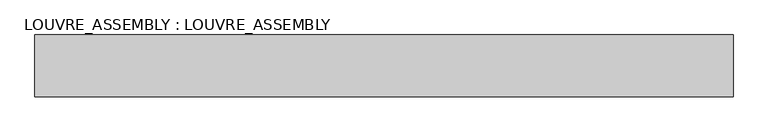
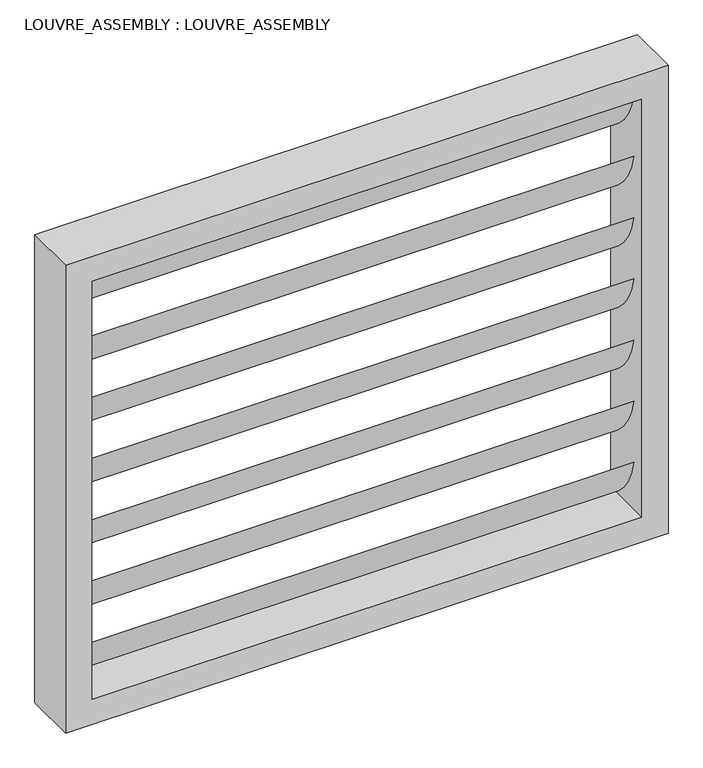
"""IFC4 building model written with IfcOpenShell, lengths in millimetres: plate geometry, LOUVRE_ASSEMBLY : LOUVRE_ASSEMBLY."""

from ifc_helpers import new_model, si_unit, point, frame, frame_2d, origin, place, context, project, spatial, circle_curve, trimmed, segment, composite_curve, outline, extrude, faceted_brep, source, transform, mapped, element, save


def louvre_assembly_louvre_assembly_2a96ff12(model_context):
    return source(origin(), model_context, "Body", "SolidModel", [
        extrude(outline(composite_curve([segment(trimmed(circle_curve(frame_2d((181.8653348, 437.5)), 222.9910312), [point((37.5, 267.5480947))], [point((-37.5, 397.4519053))], False, "CARTESIAN"), True, "CONTINUOUS"), segment(trimmed(circle_curve(frame_2d((-181.8653348, 227.5)), 222.9910312), [point((-37.5, 397.4519053))], [point((37.5, 267.5480947))], False, "CARTESIAN"), True, "CONTINUOUS")], self_intersect=False)), frame((-775.0, 0.0, 0.0), z_axis=(1.0, 0.0, 0.0), x_axis=(0.0, 1.0, 0.0)), (0.0, 0.0, 1.0), 1550.0),
        extrude(outline(composite_curve([segment(trimmed(circle_curve(frame_2d((181.8653348, 620.0)), 222.9910312), [point((37.5, 450.0480947))], [point((-37.5, 579.9519053))], False, "CARTESIAN"), True, "CONTINUOUS"), segment(trimmed(circle_curve(frame_2d((-181.8653348, 410.0)), 222.9910312), [point((-37.5, 579.9519053))], [point((37.5, 450.0480947))], False, "CARTESIAN"), True, "CONTINUOUS")], self_intersect=False)), frame((-775.0, 0.0, 0.0), z_axis=(1.0, 0.0, 0.0), x_axis=(0.0, 1.0, 0.0)), (0.0, 0.0, 1.0), 1550.0),
        extrude(outline(composite_curve([segment(trimmed(circle_curve(frame_2d((181.8653348, 802.5)), 222.9910312), [point((37.5, 632.5480947))], [point((-37.5, 762.4519053))], False, "CARTESIAN"), True, "CONTINUOUS"), segment(trimmed(circle_curve(frame_2d((-181.8653348, 592.5)), 222.9910312), [point((-37.5, 762.4519053))], [point((37.5, 632.5480947))], False, "CARTESIAN"), True, "CONTINUOUS")], self_intersect=False)), frame((-775.0, 0.0, 0.0), z_axis=(1.0, 0.0, 0.0), x_axis=(0.0, 1.0, 0.0)), (0.0, 0.0, 1.0), 1550.0),
        extrude(outline(composite_curve([segment(trimmed(circle_curve(frame_2d((181.8653348, 985.0)), 222.9910312), [point((37.5, 815.0480947))], [point((-37.5, 944.9519053))], False, "CARTESIAN"), True, "CONTINUOUS"), segment(trimmed(circle_curve(frame_2d((-181.8653348, 775.0)), 222.9910312), [point((-37.5, 944.9519053))], [point((37.5, 815.0480947))], False, "CARTESIAN"), True, "CONTINUOUS")], self_intersect=False)), frame((-775.0, 0.0, 0.0), z_axis=(1.0, 0.0, 0.0), x_axis=(0.0, 1.0, 0.0)), (0.0, 0.0, 1.0), 1550.0),
        extrude(outline(composite_curve([segment(trimmed(circle_curve(frame_2d((181.8653348, 1167.5)), 222.9910312), [point((37.5, 997.5480947))], [point((-37.5, 1127.4519053))], False, "CARTESIAN"), True, "CONTINUOUS"), segment(trimmed(circle_curve(frame_2d((-181.8653348, 957.5)), 222.9910312), [point((-37.5, 1127.4519053))], [point((37.5, 997.5480947))], False, "CARTESIAN"), True, "CONTINUOUS")], self_intersect=False)), frame((-775.0, 0.0, 0.0), z_axis=(1.0, 0.0, 0.0), x_axis=(0.0, 1.0, 0.0)), (0.0, 0.0, 1.0), 1550.0),
        extrude(outline(composite_curve([segment(trimmed(circle_curve(frame_2d((181.8653348, 255.0)), 222.9910312), [point((37.5, 85.0480947))], [point((-37.5, 214.9519053))], False, "CARTESIAN"), True, "CONTINUOUS"), segment(trimmed(circle_curve(frame_2d((-181.8653348, 45.0)), 222.9910312), [point((-37.5, 214.9519053))], [point((37.5, 85.0480947))], False, "CARTESIAN"), True, "CONTINUOUS")], self_intersect=False)), frame((-775.0, 0.0, 0.0), z_axis=(1.0, 0.0, 0.0), x_axis=(0.0, 1.0, 0.0)), (0.0, 0.0, 1.0), 1550.0),
        extrude(outline(composite_curve([segment(trimmed(circle_curve(frame_2d((181.8653348, 1350.0)), 222.9910312), [point((37.5, 1180.0480947))], [point((-37.5, 1309.9519053))], False, "CARTESIAN"), True, "CONTINUOUS"), segment(trimmed(circle_curve(frame_2d((-181.8653348, 1140.0)), 222.9910312), [point((-37.5, 1309.9519053))], [point((37.5, 1180.0480947))], False, "CARTESIAN"), True, "CONTINUOUS")], self_intersect=False)), frame((-775.0, 0.0, 0.0), z_axis=(1.0, 0.0, 0.0), x_axis=(0.0, 1.0, 0.0)), (0.0, 0.0, 1.0), 1550.0),
        faceted_brep([(-850.0, -75.0, 1395.0), (-850.0, 75.0, 1395.0), (-850.0, 75.0, 0.0), (-850.0, -75.0, 0.0), (-844.375, 75.0, 1389.375), (-844.375, -69.375, 1389.375), (-844.375, -69.375, 5.625), (-844.375, 75.0, 5.625), (-780.625, -69.375, 1325.625), (-780.625, 75.0, 1325.625), (-780.625, 75.0, 69.375), (-780.625, -69.375, 69.375), (-775.0, 75.0, 1320.0), (-775.0, -75.0, 1320.0), (-775.0, -75.0, 75.0), (-775.0, 75.0, 75.0), (850.0, 75.0, 0.0), (850.0, -75.0, 0.0), (844.375, -69.375, 5.625), (844.375, 75.0, 5.625), (780.625, 75.0, 69.375), (780.625, -69.375, 69.375), (775.0, -75.0, 75.0), (775.0, 75.0, 75.0), (850.0, 75.0, 1395.0), (850.0, -75.0, 1395.0), (844.375, -69.375, 1389.375), (844.375, 75.0, 1389.375), (780.625, 75.0, 1325.625), (780.625, -69.375, 1325.625), (775.0, -75.0, 1320.0), (775.0, 75.0, 1320.0)], [[[0, 1, 2, 3]], [[4, 5, 6, 7]], [[8, 9, 10, 11]], [[12, 13, 14, 15]], [[3, 2, 16, 17]], [[7, 6, 18, 19]], [[11, 10, 20, 21]], [[15, 14, 22, 23]], [[17, 16, 24, 25]], [[19, 18, 26, 27]], [[21, 20, 28, 29]], [[23, 22, 30, 31]], [[25, 24, 1, 0]], [[27, 26, 5, 4]], [[29, 28, 9, 8]], [[31, 30, 13, 12]], [[3, 17, 25, 0], [13, 30, 22, 14]], [[9, 28, 20, 10], [15, 23, 31, 12]], [[5, 26, 18, 6], [11, 21, 29, 8]], [[1, 24, 16, 2], [7, 19, 27, 4]]]),
    ])


if __name__ == "__main__":
    model = new_model("IFC4")
    model_context = context("Model", 3, world=origin())
    ifc_project = project(units=[si_unit("LENGTHUNIT", "METRE", prefix="MILLI")], contexts=[model_context])
    site = spatial("IfcSite", under=ifc_project)
    building = spatial("IfcBuilding", under=site)
    placement = place(None, origin())
    louvre_assembly_louvre_assembly_shape = louvre_assembly_louvre_assembly_2a96ff12(model_context)
    element("IfcPlate", 1, ObjectType="LOUVRE_ASSEMBLY : LOUVRE_ASSEMBLY", at=placement, inside=building, context=model_context, shape_type="MappedRepresentation", body=[
        mapped(louvre_assembly_louvre_assembly_shape, transform((0.0, 0.0, 0.0), x_axis=(1.0, 0.0, 0.0), y_axis=(0.0, 1.0, 0.0), z_axis=(0.0, 0.0, 1.0))),
    ])
    save(model, "model.ifc")
